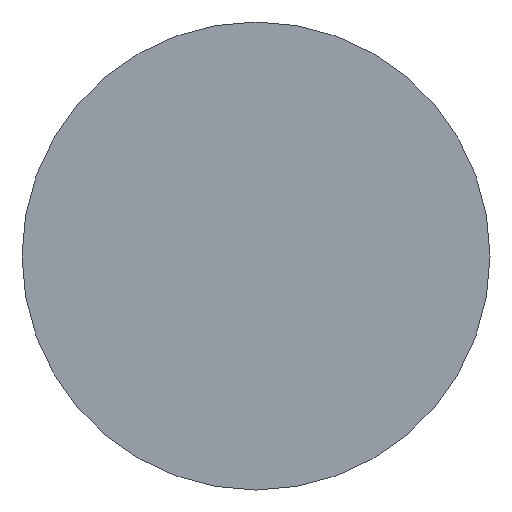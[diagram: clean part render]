
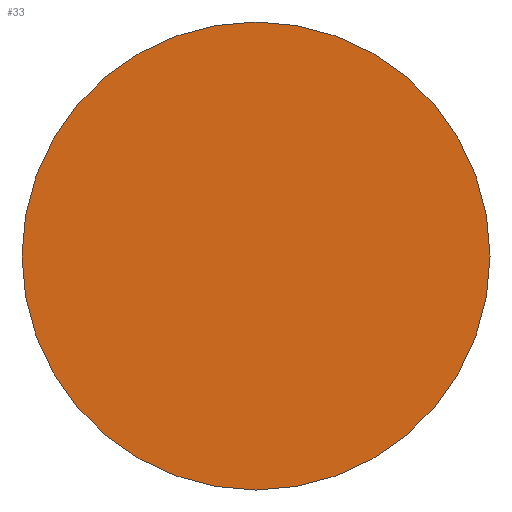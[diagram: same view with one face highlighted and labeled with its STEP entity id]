
A CAD part, left-side view. The second image highlights one B-rep face of the part: STEP entity #33.
In plain terms, the highlighted planar face has unit normal (-1, 0, 0).
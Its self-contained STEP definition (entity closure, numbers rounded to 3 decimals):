
#5 = VERTEX_POINT ( 'NONE', #130 ) ;
#8 = VERTEX_POINT ( 'NONE', #119 ) ;
#14 = AXIS2_PLACEMENT_3D ( 'NONE', #192, #251, #238 ) ;
#18 = DIRECTION ( 'NONE',  ( 0., 0., -1. ) ) ;
#33 = ADVANCED_FACE ( 'NONE', ( #117 ), #46, .F. ) ;
#46 = PLANE ( 'NONE',  #122 ) ;
#51 = DIRECTION ( 'NONE',  ( 0., 0., 1. ) ) ;
#63 = CIRCLE ( 'NONE', #242, 1.4 ) ;
#117 = FACE_OUTER_BOUND ( 'NONE', #278, .T. ) ;
#119 = CARTESIAN_POINT ( 'NONE',  ( 0., 0., 1.4 ) ) ;
#122 = AXIS2_PLACEMENT_3D ( 'NONE', #168, #228, #18 ) ;
#127 = CIRCLE ( 'NONE', #14, 1.4 ) ;
#130 = CARTESIAN_POINT ( 'NONE',  ( 0., 0., -1.4 ) ) ;
#149 = ORIENTED_EDGE ( 'NONE', *, *, #160, .T. ) ;
#157 = EDGE_CURVE ( 'NONE', #5, #8, #63, .T. ) ;
#160 = EDGE_CURVE ( 'NONE', #8, #5, #127, .T. ) ;
#163 = CARTESIAN_POINT ( 'NONE',  ( 0., 0., 0. ) ) ;
#168 = CARTESIAN_POINT ( 'NONE',  ( 0., 0., 0. ) ) ;
#190 = DIRECTION ( 'NONE',  ( -1., 0., 0. ) ) ;
#192 = CARTESIAN_POINT ( 'NONE',  ( 0., 0., 0. ) ) ;
#228 = DIRECTION ( 'NONE',  ( 1., 0., 0. ) ) ;
#238 = DIRECTION ( 'NONE',  ( 0., 0., 1. ) ) ;
#239 = ORIENTED_EDGE ( 'NONE', *, *, #157, .T. ) ;
#242 = AXIS2_PLACEMENT_3D ( 'NONE', #163, #190, #51 ) ;
#251 = DIRECTION ( 'NONE',  ( -1., 0., 0. ) ) ;
#278 = EDGE_LOOP ( 'NONE', ( #149, #239 ) ) ;
